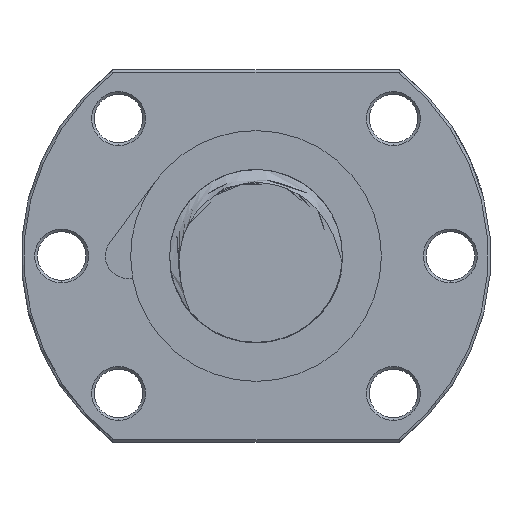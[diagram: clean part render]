
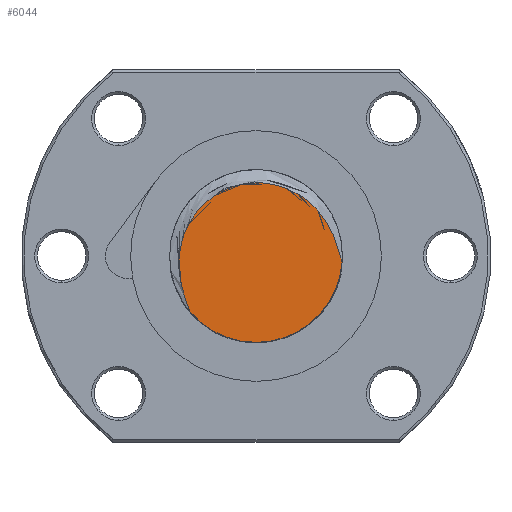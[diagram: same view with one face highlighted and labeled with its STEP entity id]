
A CAD part, left-side view. The second image highlights one B-rep face of the part: STEP entity #6044.
In plain terms, the highlighted planar face has unit normal (-1, 0, 0).
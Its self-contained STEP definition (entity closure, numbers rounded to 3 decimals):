
#5082 = DIRECTION ( 'NONE',  ( 0., 1., 0. ) ) ;
#5083 = DIRECTION ( 'NONE',  ( 1., 0., 0. ) ) ;
#5085 = AXIS2_PLACEMENT_3D ( 'NONE', #5093, #5083, #5082 ) ;
#5086 = CIRCLE ( 'NONE', #5085, 16. ) ;
#5093 = CARTESIAN_POINT ( 'NONE',  ( -128., 0., 0. ) ) ;
#5460 = VERTEX_POINT ( 'NONE', #12791 ) ;
#5469 = VERTEX_POINT ( 'NONE', #7735 ) ;
#5471 = EDGE_CURVE ( 'NONE', #5469, #5460, #7733, .T. ) ;
#5700 = EDGE_CURVE ( 'NONE', #5747, #5469, #5086, .T. ) ;
#5747 = VERTEX_POINT ( 'NONE', #7554 ) ;
#6041 = EDGE_LOOP ( 'NONE', ( #6045, #6046, #6048 ) ) ;
#6044 = ADVANCED_FACE ( 'NONE', ( #20000 ), #19997, .F. ) ;
#6045 = ORIENTED_EDGE ( 'NONE', *, *, #5700, .F. ) ;
#6046 = ORIENTED_EDGE ( 'NONE', *, *, #6047, .T. ) ;
#6047 = EDGE_CURVE ( 'NONE', #5747, #5460, #19984, .T. ) ;
#6048 = ORIENTED_EDGE ( 'NONE', *, *, #5471, .F. ) ;
#7554 = CARTESIAN_POINT ( 'NONE',  ( -128., -15.961, -1.121 ) ) ;
#7729 = DIRECTION ( 'NONE',  ( 0., 1., 0. ) ) ;
#7730 = DIRECTION ( 'NONE',  ( 1., 0., 0. ) ) ;
#7731 = CARTESIAN_POINT ( 'NONE',  ( -128., 0., 0. ) ) ;
#7732 = AXIS2_PLACEMENT_3D ( 'NONE', #7731, #7730, #7729 ) ;
#7733 = CIRCLE ( 'NONE', #7732, 16. ) ;
#7735 = CARTESIAN_POINT ( 'NONE',  ( -128., 0., -16. ) ) ;
#12791 = CARTESIAN_POINT ( 'NONE',  ( -128., 12.254, -10.288 ) ) ;
#19980 = CARTESIAN_POINT ( 'NONE',  ( -128., -15.619, -0.006 ) ) ;
#19981 = CARTESIAN_POINT ( 'NONE',  ( -128., -15.78, -0.567 ) ) ;
#19982 = CARTESIAN_POINT ( 'NONE',  ( -128., -15.862, -0.846 ) ) ;
#19983 = CARTESIAN_POINT ( 'NONE',  ( -128., -15.961, -1.121 ) ) ;
#19984 = B_SPLINE_CURVE_WITH_KNOTS ( 'NONE', 3,
 ( #19983, #19982, #19981, #19980, #20059, #20058, #20057, #20056, #20055, #20054, #20053, #20052, #20051, #20050, #20049, #20048, #20047, #20046, #20045, #20044, #20043, #20042, #20041, #20040, #20039, #20038, #20037, #20036, #20035, #20034, #20033, #20032, #20031, #20030, #20029, #20028, #20027, #20026, #20025, #20024, #20023, #20022, #20021, #20020, #20019, #20018, #20017, #20016, #20015, #20014, #20013, #20012, #20011, #20010, #20099, #20098, #20096, #20095, #20094, #20093, #20092, #20091, #20090, #20089, #20088, #20087, #20086, #20085 ),
 .UNSPECIFIED., .F., .F.,
 ( 4, 2, 2, 2, 2, 2, 2, 2, 2, 2, 2, 2, 2, 2, 2, 2, 2, 2, 2, 2, 2, 2, 2, 2, 2, 2, 2, 2, 2, 2, 2, 2, 2, 4 ),
 ( 0.001, 0.001, 0.002, 0.004, 0.008, 0.009, 0.011, 0.013, 0.014, 0.015, 0.018, 0.019, 0.02, 0.022, 0.023, 0.024, 0.025, 0.029, 0.03, 0.032, 0.034, 0.035, 0.036, 0.039, 0.041, 0.043, 0.044, 0.046, 0.048, 0.05, 0.053, 0.055, 0.056, 0.057 ),
 .UNSPECIFIED. ) ;
#19986 = DIRECTION ( 'NONE',  ( 0., 0., -1. ) ) ;
#19987 = DIRECTION ( 'NONE',  ( 1., 0., 0. ) ) ;
#19988 = CARTESIAN_POINT ( 'NONE',  ( -128., 0., 0. ) ) ;
#19997 = PLANE ( 'NONE',  #19999 ) ;
#19999 = AXIS2_PLACEMENT_3D ( 'NONE', #19988, #19987, #19986 ) ;
#20000 = FACE_OUTER_BOUND ( 'NONE', #6041, .T. ) ;
#20010 = CARTESIAN_POINT ( 'NONE',  ( -128., 14.106, 1.045 ) ) ;
#20011 = CARTESIAN_POINT ( 'NONE',  ( -128., 13.882, 2.193 ) ) ;
#20012 = CARTESIAN_POINT ( 'NONE',  ( -128., 13.739, 2.758 ) ) ;
#20013 = CARTESIAN_POINT ( 'NONE',  ( -128., 13.391, 3.862 ) ) ;
#20014 = CARTESIAN_POINT ( 'NONE',  ( -128., 13.186, 4.403 ) ) ;
#20015 = CARTESIAN_POINT ( 'NONE',  ( -128., 12.713, 5.459 ) ) ;
#20016 = CARTESIAN_POINT ( 'NONE',  ( -128., 12.444, 5.977 ) ) ;
#20017 = CARTESIAN_POINT ( 'NONE',  ( -128., 11.545, 7.483 ) ) ;
#20018 = CARTESIAN_POINT ( 'NONE',  ( -128., 10.84, 8.4 ) ) ;
#20019 = CARTESIAN_POINT ( 'NONE',  ( -128., 9.827, 9.437 ) ) ;
#20020 = CARTESIAN_POINT ( 'NONE',  ( -128., 9.618, 9.639 ) ) ;
#20021 = CARTESIAN_POINT ( 'NONE',  ( -128., 9.185, 10.03 ) ) ;
#20022 = CARTESIAN_POINT ( 'NONE',  ( -128., 8.962, 10.221 ) ) ;
#20023 = CARTESIAN_POINT ( 'NONE',  ( -128., 8.279, 10.767 ) ) ;
#20024 = CARTESIAN_POINT ( 'NONE',  ( -128., 7.805, 11.101 ) ) ;
#20025 = CARTESIAN_POINT ( 'NONE',  ( -128., 6.823, 11.71 ) ) ;
#20026 = CARTESIAN_POINT ( 'NONE',  ( -128., 6.314, 11.985 ) ) ;
#20027 = CARTESIAN_POINT ( 'NONE',  ( -128., 5.26, 12.475 ) ) ;
#20028 = CARTESIAN_POINT ( 'NONE',  ( -128., 4.712, 12.691 ) ) ;
#20029 = CARTESIAN_POINT ( 'NONE',  ( -128., 3.053, 13.228 ) ) ;
#20030 = CARTESIAN_POINT ( 'NONE',  ( -128., 1.919, 13.446 ) ) ;
#20031 = CARTESIAN_POINT ( 'NONE',  ( -128., 0.466, 13.549 ) ) ;
#20032 = CARTESIAN_POINT ( 'NONE',  ( -128., 0.173, 13.561 ) ) ;
#20033 = CARTESIAN_POINT ( 'NONE',  ( -128., -0.411, 13.567 ) ) ;
#20034 = CARTESIAN_POINT ( 'NONE',  ( -128., -0.701, 13.561 ) ) ;
#20035 = CARTESIAN_POINT ( 'NONE',  ( -128., -1.569, 13.519 ) ) ;
#20036 = CARTESIAN_POINT ( 'NONE',  ( -128., -2.143, 13.456 ) ) ;
#20037 = CARTESIAN_POINT ( 'NONE',  ( -128., -3.281, 13.261 ) ) ;
#20038 = CARTESIAN_POINT ( 'NONE',  ( -128., -3.845, 13.13 ) ) ;
#20039 = CARTESIAN_POINT ( 'NONE',  ( -128., -4.684, 12.88 ) ) ;
#20040 = CARTESIAN_POINT ( 'NONE',  ( -128., -4.962, 12.788 ) ) ;
#20041 = CARTESIAN_POINT ( 'NONE',  ( -128., -5.51, 12.589 ) ) ;
#20042 = CARTESIAN_POINT ( 'NONE',  ( -128., -5.78, 12.481 ) ) ;
#20043 = CARTESIAN_POINT ( 'NONE',  ( -128., -7.108, 11.909 ) ) ;
#20044 = CARTESIAN_POINT ( 'NONE',  ( -128., -8.109, 11.334 ) ) ;
#20045 = CARTESIAN_POINT ( 'NONE',  ( -128., -9.279, 10.467 ) ) ;
#20046 = CARTESIAN_POINT ( 'NONE',  ( -128., -9.509, 10.286 ) ) ;
#20047 = CARTESIAN_POINT ( 'NONE',  ( -128., -9.957, 9.912 ) ) ;
#20048 = CARTESIAN_POINT ( 'NONE',  ( -128., -10.175, 9.719 ) ) ;
#20049 = CARTESIAN_POINT ( 'NONE',  ( -128., -10.81, 9.125 ) ) ;
#20050 = CARTESIAN_POINT ( 'NONE',  ( -128., -11.209, 8.707 ) ) ;
#20051 = CARTESIAN_POINT ( 'NONE',  ( -128., -11.962, 7.831 ) ) ;
#20052 = CARTESIAN_POINT ( 'NONE',  ( -128., -12.316, 7.373 ) ) ;
#20053 = CARTESIAN_POINT ( 'NONE',  ( -128., -12.978, 6.415 ) ) ;
#20054 = CARTESIAN_POINT ( 'NONE',  ( -128., -13.286, 5.915 ) ) ;
#20055 = CARTESIAN_POINT ( 'NONE',  ( -128., -14.124, 4.389 ) ) ;
#20056 = CARTESIAN_POINT ( 'NONE',  ( -128., -14.575, 3.323 ) ) ;
#20057 = CARTESIAN_POINT ( 'NONE',  ( -128., -15.135, 1.674 ) ) ;
#20058 = CARTESIAN_POINT ( 'NONE',  ( -128., -15.303, 1.116 ) ) ;
#20059 = CARTESIAN_POINT ( 'NONE',  ( -128., -15.542, 0.275 ) ) ;
#20085 = CARTESIAN_POINT ( 'NONE',  ( -128., 12.254, -10.288 ) ) ;
#20086 = CARTESIAN_POINT ( 'NONE',  ( -128., 12.336, -10.008 ) ) ;
#20087 = CARTESIAN_POINT ( 'NONE',  ( -128., 12.434, -9.733 ) ) ;
#20088 = CARTESIAN_POINT ( 'NONE',  ( -128., 12.634, -9.185 ) ) ;
#20089 = CARTESIAN_POINT ( 'NONE',  ( -128., 12.736, -8.912 ) ) ;
#20090 = CARTESIAN_POINT ( 'NONE',  ( -128., 13.038, -8.09 ) ) ;
#20091 = CARTESIAN_POINT ( 'NONE',  ( -128., 13.23, -7.539 ) ) ;
#20092 = CARTESIAN_POINT ( 'NONE',  ( -128., 13.746, -5.872 ) ) ;
#20093 = CARTESIAN_POINT ( 'NONE',  ( -128., 14.007, -4.741 ) ) ;
#20094 = CARTESIAN_POINT ( 'NONE',  ( -128., 14.228, -3.003 ) ) ;
#20095 = CARTESIAN_POINT ( 'NONE',  ( -128., 14.272, -2.421 ) ) ;
#20096 = CARTESIAN_POINT ( 'NONE',  ( -128., 14.298, -1.262 ) ) ;
#20098 = CARTESIAN_POINT ( 'NONE',  ( -128., 14.281, -0.684 ) ) ;
#20099 = CARTESIAN_POINT ( 'NONE',  ( -128., 14.185, 0.47 ) ) ;
